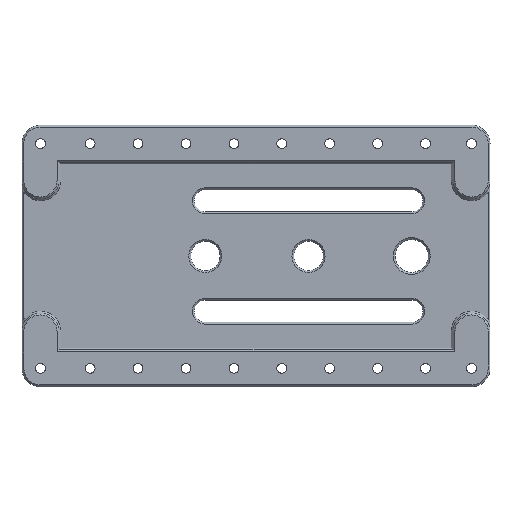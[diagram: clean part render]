
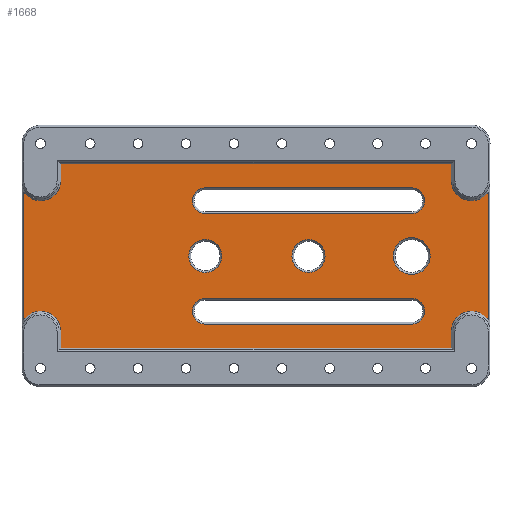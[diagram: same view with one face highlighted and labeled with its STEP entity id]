
A CAD part, top view. The second image highlights one B-rep face of the part: STEP entity #1668.
In plain terms, the highlighted planar face has unit normal (0, 0, 1).
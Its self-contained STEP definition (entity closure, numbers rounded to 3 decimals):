
#59=FACE_BOUND('',#251,.T.);
#60=FACE_BOUND('',#252,.T.);
#61=FACE_BOUND('',#253,.T.);
#62=FACE_BOUND('',#254,.T.);
#63=FACE_BOUND('',#255,.T.);
#111=PLANE('',#1780);
#154=FACE_OUTER_BOUND('',#250,.T.);
#250=EDGE_LOOP('',(#1172,#1173,#1174,#1175,#1176,#1177,#1178,#1179,#1180,
#1181,#1182,#1183));
#251=EDGE_LOOP('',(#1184,#1185,#1186,#1187));
#252=EDGE_LOOP('',(#1188));
#253=EDGE_LOOP('',(#1189));
#254=EDGE_LOOP('',(#1190,#1191,#1192,#1193));
#255=EDGE_LOOP('',(#1194));
#396=LINE('',#2502,#537);
#397=LINE('',#2505,#538);
#400=LINE('',#2511,#541);
#401=LINE('',#2515,#542);
#402=LINE('',#2517,#543);
#403=LINE('',#2519,#544);
#404=LINE('',#2523,#545);
#405=LINE('',#2526,#546);
#406=LINE('',#2531,#547);
#407=LINE('',#2534,#548);
#408=LINE('',#2543,#549);
#409=LINE('',#2546,#550);
#537=VECTOR('',#1977,10.);
#538=VECTOR('',#1980,10.);
#541=VECTOR('',#1985,10.);
#542=VECTOR('',#1988,10.);
#543=VECTOR('',#1989,10.);
#544=VECTOR('',#1990,10.);
#545=VECTOR('',#1993,10.);
#546=VECTOR('',#1996,10.);
#547=VECTOR('',#1999,10.);
#548=VECTOR('',#2002,10.);
#549=VECTOR('',#2009,10.);
#550=VECTOR('',#2012,10.);
#675=CIRCLE('',#1776,11.);
#677=CIRCLE('',#1781,11.);
#678=CIRCLE('',#1782,11.);
#679=CIRCLE('',#1783,11.);
#680=CIRCLE('',#1784,7.);
#681=CIRCLE('',#1785,7.);
#682=CIRCLE('',#1786,9.);
#683=CIRCLE('',#1787,9.);
#684=CIRCLE('',#1788,7.);
#685=CIRCLE('',#1789,7.);
#686=CIRCLE('',#1790,10.);
#769=VERTEX_POINT('',#2488);
#770=VERTEX_POINT('',#2492);
#773=VERTEX_POINT('',#2499);
#774=VERTEX_POINT('',#2504);
#776=VERTEX_POINT('',#2510);
#777=VERTEX_POINT('',#2512);
#778=VERTEX_POINT('',#2514);
#779=VERTEX_POINT('',#2516);
#780=VERTEX_POINT('',#2518);
#781=VERTEX_POINT('',#2520);
#782=VERTEX_POINT('',#2522);
#783=VERTEX_POINT('',#2524);
#784=VERTEX_POINT('',#2527);
#785=VERTEX_POINT('',#2528);
#786=VERTEX_POINT('',#2530);
#787=VERTEX_POINT('',#2532);
#788=VERTEX_POINT('',#2535);
#789=VERTEX_POINT('',#2537);
#790=VERTEX_POINT('',#2539);
#791=VERTEX_POINT('',#2540);
#792=VERTEX_POINT('',#2542);
#793=VERTEX_POINT('',#2544);
#794=VERTEX_POINT('',#2547);
#918=EDGE_CURVE('',#769,#770,#675,.T.);
#923=EDGE_CURVE('',#770,#773,#396,.T.);
#924=EDGE_CURVE('',#773,#774,#397,.T.);
#927=EDGE_CURVE('',#776,#769,#400,.T.);
#928=EDGE_CURVE('',#777,#776,#677,.T.);
#929=EDGE_CURVE('',#778,#777,#401,.T.);
#930=EDGE_CURVE('',#779,#778,#402,.T.);
#931=EDGE_CURVE('',#780,#779,#403,.T.);
#932=EDGE_CURVE('',#781,#780,#678,.T.);
#933=EDGE_CURVE('',#782,#781,#404,.T.);
#934=EDGE_CURVE('',#783,#782,#679,.T.);
#935=EDGE_CURVE('',#774,#783,#405,.T.);
#936=EDGE_CURVE('',#784,#785,#680,.T.);
#937=EDGE_CURVE('',#786,#784,#406,.T.);
#938=EDGE_CURVE('',#787,#786,#681,.T.);
#939=EDGE_CURVE('',#785,#787,#407,.T.);
#940=EDGE_CURVE('',#788,#788,#682,.T.);
#941=EDGE_CURVE('',#789,#789,#683,.T.);
#942=EDGE_CURVE('',#790,#791,#684,.T.);
#943=EDGE_CURVE('',#792,#790,#408,.T.);
#944=EDGE_CURVE('',#793,#792,#685,.T.);
#945=EDGE_CURVE('',#791,#793,#409,.T.);
#946=EDGE_CURVE('',#794,#794,#686,.T.);
#1172=ORIENTED_EDGE('',*,*,#923,.F.);
#1173=ORIENTED_EDGE('',*,*,#918,.F.);
#1174=ORIENTED_EDGE('',*,*,#927,.F.);
#1175=ORIENTED_EDGE('',*,*,#928,.F.);
#1176=ORIENTED_EDGE('',*,*,#929,.F.);
#1177=ORIENTED_EDGE('',*,*,#930,.F.);
#1178=ORIENTED_EDGE('',*,*,#931,.F.);
#1179=ORIENTED_EDGE('',*,*,#932,.F.);
#1180=ORIENTED_EDGE('',*,*,#933,.F.);
#1181=ORIENTED_EDGE('',*,*,#934,.F.);
#1182=ORIENTED_EDGE('',*,*,#935,.F.);
#1183=ORIENTED_EDGE('',*,*,#924,.F.);
#1184=ORIENTED_EDGE('',*,*,#936,.F.);
#1185=ORIENTED_EDGE('',*,*,#937,.F.);
#1186=ORIENTED_EDGE('',*,*,#938,.F.);
#1187=ORIENTED_EDGE('',*,*,#939,.F.);
#1188=ORIENTED_EDGE('',*,*,#940,.F.);
#1189=ORIENTED_EDGE('',*,*,#941,.F.);
#1190=ORIENTED_EDGE('',*,*,#942,.F.);
#1191=ORIENTED_EDGE('',*,*,#943,.F.);
#1192=ORIENTED_EDGE('',*,*,#944,.F.);
#1193=ORIENTED_EDGE('',*,*,#945,.F.);
#1194=ORIENTED_EDGE('',*,*,#946,.F.);
#1668=ADVANCED_FACE('',(#154,#59,#60,#61,#62,#63),#111,.T.);
#1776=AXIS2_PLACEMENT_3D('',#2493,#1968,#1969);
#1780=AXIS2_PLACEMENT_3D('',#2509,#1983,#1984);
#1781=AXIS2_PLACEMENT_3D('',#2513,#1986,#1987);
#1782=AXIS2_PLACEMENT_3D('',#2521,#1991,#1992);
#1783=AXIS2_PLACEMENT_3D('',#2525,#1994,#1995);
#1784=AXIS2_PLACEMENT_3D('',#2529,#1997,#1998);
#1785=AXIS2_PLACEMENT_3D('',#2533,#2000,#2001);
#1786=AXIS2_PLACEMENT_3D('',#2536,#2003,#2004);
#1787=AXIS2_PLACEMENT_3D('',#2538,#2005,#2006);
#1788=AXIS2_PLACEMENT_3D('',#2541,#2007,#2008);
#1789=AXIS2_PLACEMENT_3D('',#2545,#2010,#2011);
#1790=AXIS2_PLACEMENT_3D('',#2548,#2013,#2014);
#1968=DIRECTION('center_axis',(0.,0.,1.));
#1969=DIRECTION('ref_axis',(1.,0.,0.));
#1977=DIRECTION('',(0.,1.,0.));
#1980=DIRECTION('',(1.,0.,0.));
#1983=DIRECTION('center_axis',(0.,0.,1.));
#1984=DIRECTION('ref_axis',(1.,0.,0.));
#1985=DIRECTION('',(0.,1.,0.));
#1986=DIRECTION('center_axis',(0.,0.,1.));
#1987=DIRECTION('ref_axis',(1.,0.,0.));
#1988=DIRECTION('',(0.,1.,0.));
#1989=DIRECTION('',(-1.,0.,0.));
#1990=DIRECTION('',(0.,-1.,0.));
#1991=DIRECTION('center_axis',(0.,0.,1.));
#1992=DIRECTION('ref_axis',(-1.,0.019,0.));
#1993=DIRECTION('',(0.,-1.,0.));
#1994=DIRECTION('center_axis',(0.,0.,1.));
#1995=DIRECTION('ref_axis',(-1.,0.,0.));
#1996=DIRECTION('',(0.,-1.,0.));
#1997=DIRECTION('center_axis',(0.,0.,1.));
#1998=DIRECTION('ref_axis',(0.,-1.,0.));
#1999=DIRECTION('',(1.,0.,0.));
#2000=DIRECTION('center_axis',(0.,0.,1.));
#2001=DIRECTION('ref_axis',(0.,1.,0.));
#2002=DIRECTION('',(-1.,0.,0.));
#2003=DIRECTION('center_axis',(0.,0.,1.));
#2004=DIRECTION('ref_axis',(1.,0.,0.));
#2005=DIRECTION('center_axis',(0.,0.,1.));
#2006=DIRECTION('ref_axis',(1.,0.,0.));
#2007=DIRECTION('center_axis',(0.,0.,1.));
#2008=DIRECTION('ref_axis',(0.,-1.,0.));
#2009=DIRECTION('',(1.,0.,0.));
#2010=DIRECTION('center_axis',(0.,0.,1.));
#2011=DIRECTION('ref_axis',(0.,1.,0.));
#2012=DIRECTION('',(-1.,0.,0.));
#2013=DIRECTION('center_axis',(0.,0.,1.));
#2014=DIRECTION('ref_axis',(1.,0.,0.));
#2488=CARTESIAN_POINT('',(-418.319,468.479,3.));
#2492=CARTESIAN_POINT('',(-398.319,474.804,3.));
#2493=CARTESIAN_POINT('Origin',(-409.319,474.804,3.));
#2499=CARTESIAN_POINT('',(-398.319,483.805,3.));
#2502=CARTESIAN_POINT('',(-398.319,454.304,3.));
#2504=CARTESIAN_POINT('',(-186.319,483.805,3.));
#2505=CARTESIAN_POINT('',(-345.82,483.805,3.));
#2509=CARTESIAN_POINT('Origin',(-292.32,433.805,3.));
#2510=CARTESIAN_POINT('',(-418.319,399.131,3.));
#2511=CARTESIAN_POINT('',(-418.319,464.305,3.));
#2512=CARTESIAN_POINT('',(-398.319,392.806,3.));
#2513=CARTESIAN_POINT('Origin',(-409.319,392.806,3.));
#2514=CARTESIAN_POINT('',(-398.319,383.805,3.));
#2515=CARTESIAN_POINT('',(-398.319,408.305,3.));
#2516=CARTESIAN_POINT('',(-186.319,383.805,3.));
#2517=CARTESIAN_POINT('',(-238.82,383.805,3.));
#2518=CARTESIAN_POINT('',(-186.319,392.805,3.));
#2519=CARTESIAN_POINT('',(-186.319,413.305,3.));
#2520=CARTESIAN_POINT('',(-166.321,399.132,3.));
#2521=CARTESIAN_POINT('Origin',(-175.319,392.805,3.));
#2522=CARTESIAN_POINT('',(-166.321,468.478,3.));
#2523=CARTESIAN_POINT('',(-166.321,454.21,3.));
#2524=CARTESIAN_POINT('',(-186.319,474.805,3.));
#2525=CARTESIAN_POINT('Origin',(-175.319,474.805,3.));
#2526=CARTESIAN_POINT('',(-186.319,459.305,3.));
#2527=CARTESIAN_POINT('',(-207.819,396.805,3.));
#2528=CARTESIAN_POINT('',(-207.819,410.805,3.));
#2529=CARTESIAN_POINT('Origin',(-207.819,403.805,3.));
#2530=CARTESIAN_POINT('',(-319.819,396.805,3.));
#2531=CARTESIAN_POINT('',(-250.07,396.805,3.));
#2532=CARTESIAN_POINT('',(-319.819,410.805,3.));
#2533=CARTESIAN_POINT('Origin',(-319.819,403.805,3.));
#2534=CARTESIAN_POINT('',(-306.07,410.805,3.));
#2535=CARTESIAN_POINT('',(-272.819,433.805,3.));
#2536=CARTESIAN_POINT('Origin',(-263.819,433.805,3.));
#2537=CARTESIAN_POINT('',(-328.819,433.805,3.));
#2538=CARTESIAN_POINT('Origin',(-319.819,433.805,3.));
#2539=CARTESIAN_POINT('',(-207.819,456.805,3.));
#2540=CARTESIAN_POINT('',(-207.819,470.805,3.));
#2541=CARTESIAN_POINT('Origin',(-207.819,463.805,3.));
#2542=CARTESIAN_POINT('',(-319.819,456.805,3.));
#2543=CARTESIAN_POINT('',(-250.07,456.805,3.));
#2544=CARTESIAN_POINT('',(-319.819,470.805,3.));
#2545=CARTESIAN_POINT('Origin',(-319.819,463.805,3.));
#2546=CARTESIAN_POINT('',(-306.07,470.805,3.));
#2547=CARTESIAN_POINT('',(-217.819,433.805,3.));
#2548=CARTESIAN_POINT('Origin',(-207.819,433.805,3.));
